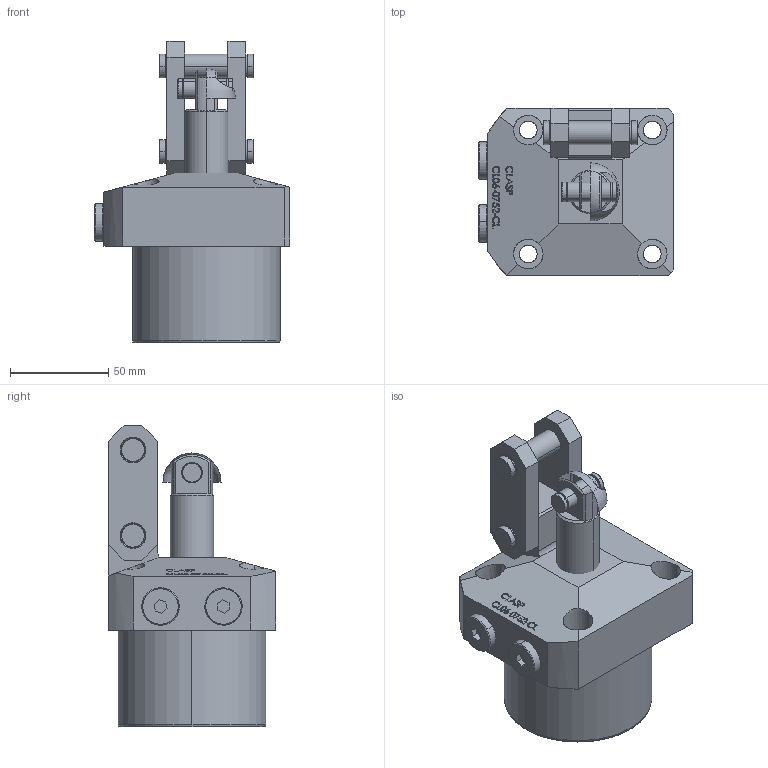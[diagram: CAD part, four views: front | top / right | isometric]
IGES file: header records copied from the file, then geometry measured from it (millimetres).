
Start section: SolidWorks IGES file using analytic representation for surfaces
Global section: file name: D:\karuppas\Clasp\3D model\Link clamp cylinder\CL06-0752 CL\CL06-0752 cl.IGS; native system: SolidWorks 2017; preprocessor: SolidWorks 2017; author: pc; date: 220705.231210; units: millimetre
Bounding box: 99.5 x 85 x 153 mm (x, y, z)
Surface area: 69204.4 mm2 (no closed solid volume)
Topology: 0 solids, 0 shells, 417 faces, 6316 edges, 6311 vertices
Faces by surface type: bspline 279, revolution 138
